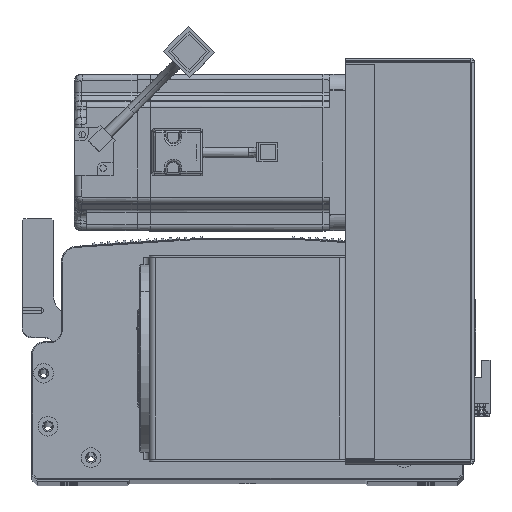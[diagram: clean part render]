
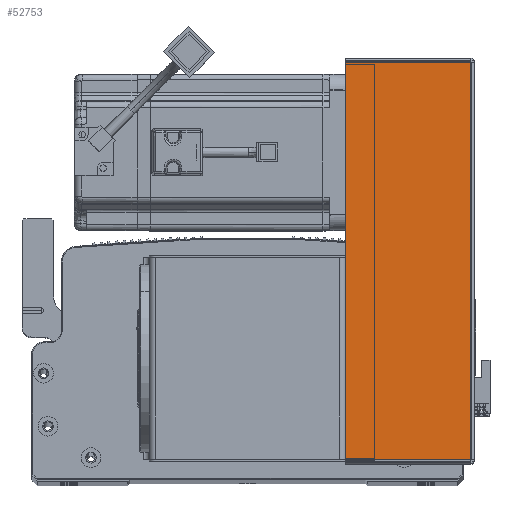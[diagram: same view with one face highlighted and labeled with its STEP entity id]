
A CAD part, top view. The second image highlights one B-rep face of the part: STEP entity #52753.
In plain terms, the highlighted planar face has unit normal (0, 0, 1) as drawn and (0, -1, 0) by its records, which use the part's own axes.
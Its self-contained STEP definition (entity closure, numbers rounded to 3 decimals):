
#1427 = DIRECTION ( 'NONE',  ( 1., 0., 0. ) ) ;
#2263 = VERTEX_POINT ( 'NONE', #45229 ) ;
#8619 = VERTEX_POINT ( 'NONE', #75749 ) ;
#9892 = PLANE ( 'NONE',  #37261 ) ;
#13352 = ORIENTED_EDGE ( 'NONE', *, *, #49062, .T. ) ;
#14328 = VERTEX_POINT ( 'NONE', #76196 ) ;
#14535 = VECTOR ( 'NONE', #56404, 1000. ) ;
#15486 = CARTESIAN_POINT ( 'NONE',  ( 64.5, -1.5, 0. ) ) ;
#16674 = ORIENTED_EDGE ( 'NONE', *, *, #26945, .T. ) ;
#20230 = FACE_OUTER_BOUND ( 'NONE', #24593, .T. ) ;
#23448 = CARTESIAN_POINT ( 'NONE',  ( 64.5, -1.5, -0.707 ) ) ;
#24366 = VECTOR ( 'NONE', #76400, 1000. ) ;
#24593 = EDGE_LOOP ( 'NONE', ( #41245, #16674, #13352, #48705 ) ) ;
#25030 = LINE ( 'NONE', #15486, #58773 ) ;
#26945 = EDGE_CURVE ( 'NONE', #8619, #2263, #68976, .T. ) ;
#37261 = AXIS2_PLACEMENT_3D ( 'NONE', #84108, #70847, #77039 ) ;
#41245 = ORIENTED_EDGE ( 'NONE', *, *, #81532, .F. ) ;
#41458 = CARTESIAN_POINT ( 'NONE',  ( 0.737, -1.5, 0. ) ) ;
#45229 = CARTESIAN_POINT ( 'NONE',  ( 64.5, -1.5, -203.293 ) ) ;
#45344 = EDGE_CURVE ( 'NONE', #14328, #67196, #83375, .T. ) ;
#48705 = ORIENTED_EDGE ( 'NONE', *, *, #45344, .F. ) ;
#49062 = EDGE_CURVE ( 'NONE', #2263, #67196, #25030, .T. ) ;
#51080 = VECTOR ( 'NONE', #1427, 1000. ) ;
#52753 = ADVANCED_FACE ( 'NONE', ( #20230 ), #9892, .F. ) ;
#56404 = DIRECTION ( 'NONE',  ( 0., 0., 1. ) ) ;
#58773 = VECTOR ( 'NONE', #62597, 1000. ) ;
#62597 = DIRECTION ( 'NONE',  ( 0., 0., 1. ) ) ;
#67196 = VERTEX_POINT ( 'NONE', #23448 ) ;
#67672 = CARTESIAN_POINT ( 'NONE',  ( 0., -1.5, -203.293 ) ) ;
#68976 = LINE ( 'NONE', #67672, #51080 ) ;
#70847 = DIRECTION ( 'NONE',  ( 0., 1., 0. ) ) ;
#75749 = CARTESIAN_POINT ( 'NONE',  ( 0.737, -1.5, -203.293 ) ) ;
#76196 = CARTESIAN_POINT ( 'NONE',  ( 0.737, -1.5, -0.707 ) ) ;
#76400 = DIRECTION ( 'NONE',  ( 1., 0., 0. ) ) ;
#77039 = DIRECTION ( 'NONE',  ( -1., 0., 0. ) ) ;
#78855 = LINE ( 'NONE', #41458, #14535 ) ;
#81532 = EDGE_CURVE ( 'NONE', #8619, #14328, #78855, .T. ) ;
#83375 = LINE ( 'NONE', #84032, #24366 ) ;
#84032 = CARTESIAN_POINT ( 'NONE',  ( 0., -1.5, -0.707 ) ) ;
#84108 = CARTESIAN_POINT ( 'NONE',  ( 0., -1.5, 0. ) ) ;
